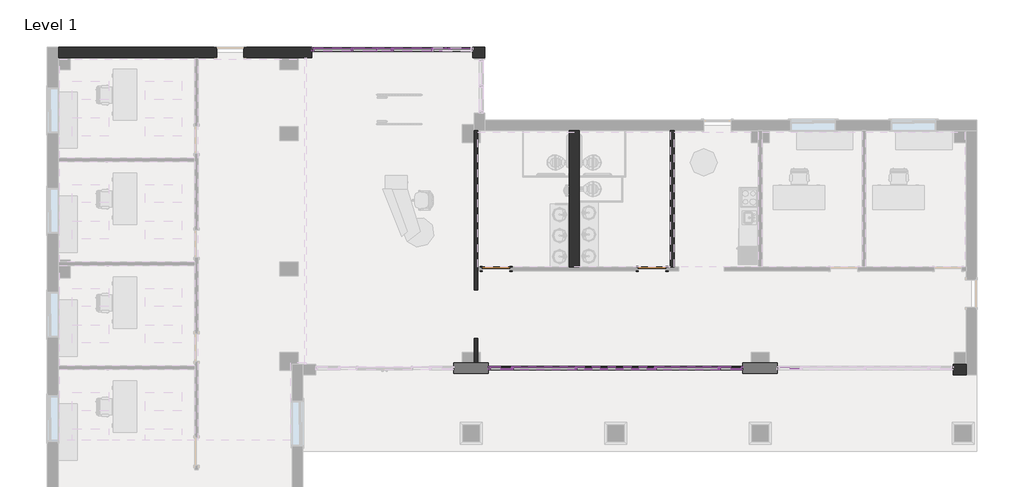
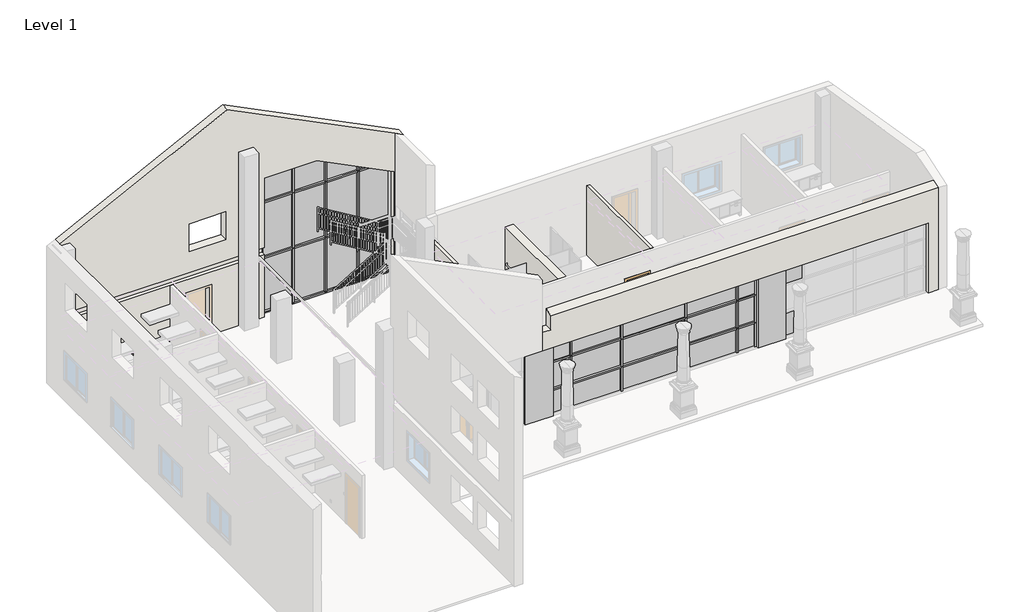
# One storey, part 2 of 8: 61 members, 31 plates, 6 walls, 2 doors.
"""IFC4 building model written with IfcOpenShell, lengths in millimetres."""

from ifc_helpers import new_model, si_unit, origin, origin_with_axes, place, context, project, spatial, polyline, outline, extrude, faceted_brep, transform, mapped, element, save
from components import door_eb9f8b14, door_88503111, member_a715cb85, member_2b49869a, member_4f1c84db, member_e69b4e5a, member_c7c5a8a0, member_13dc6413, member_3374d9b6, member_830c086e, member_f0fea5a5, member_ee409385, member_d635bea1, member_5783932f, member_ba1b3d85, member_98b79ab6, member_badecc6f, member_398e82c5, member_3ca69e07, member_e8e44c72, member_143c79e4, member_374c6745, member_8bab0767, member_1c7aa2bc, member_f444ca48, member_5247cb20, system_panel_glazed_93fe6fa7, system_panel_glazed_6ce5e085, system_panel_glazed_63f474c4, system_panel_glazed_4b691734, system_panel_glazed_53b4157c, system_panel_glazed_7b5ce646, system_panel_glazed_2dd6ead6, system_panel_glazed_6caac039, system_panel_glazed_878f6614, system_panel_glazed_8dfcc79d, system_panel_glazed_ef97d2b3, system_panel_glazed_c584759f, system_panel_glazed_aff2306c, system_panel_glazed_6eaeb95c, system_panel_glazed_87e5606a, system_panel_glazed_8c70cf02, system_panel_solid_6039f36e, system_panel_solid_0ed6c75d

model = new_model("IFC4")

# Units and contexts
model_context = context("Model", 3, world=origin())
ifc_project = project(units=[si_unit("LENGTHUNIT", "METRE", prefix="MILLI")], contexts=[model_context])

# Site, building, storey
site = spatial("IfcSite", under=ifc_project)
building = spatial("IfcBuilding", under=site)
storey = spatial("IfcBuildingStorey", under=building, Name="Level 1", Elevation=0.0)

# Doors
placement = place(None, origin())
door_shape = door_eb9f8b14(model_context)
element("IfcDoor", 1, ObjectType="Single-Flush : 36\" x 84\"", at=placement, inside=storey, context=model_context, shape_type="MappedRepresentation", body=[
    mapped(door_shape, transform((1075.2733448, 3496.4480424, 0.0), x_axis=(-1.0, 0.0, 0.0), y_axis=(0.0, -1.0, 0.0), z_axis=(0.0, 0.0, 1.0))),
])
door_2_shape = door_88503111(model_context)
element("IfcDoor", 2, ObjectType="Single-Flush : 36\" x 84\"", at=placement, inside=storey, context=model_context, shape_type="MappedRepresentation", body=[
    mapped(door_2_shape, transform((6294.9733448, 3496.4480424, 0.0), x_axis=(1.0, 0.0, 0.0), y_axis=(0.0, 1.0, 0.0), z_axis=(0.0, 0.0, 1.0))),
])

# Members
member_shape = member_a715cb85(model_context)
element("IfcMember", 3, ObjectType="Rectangular Mullion : 2.5\" x 5\" Rectangular", at=placement, inside=storey, context=model_context, shape_type="MappedRepresentation", body=[
    mapped(member_shape, transform((1611.8483448, 175.3980424, 0.0), x_axis=(1.0, 0.0, 0.0), y_axis=(0.0, -1.0, 0.0), z_axis=(0.0, 0.0, -1.0))),
])
element("IfcMember", 4, ObjectType="Rectangular Mullion : 2.5\" x 5\" Rectangular", at=placement, inside=storey, context=model_context, shape_type="MappedRepresentation", body=[
    mapped(member_shape, transform((3745.4483448, 175.3980424, 0.0), x_axis=(1.0, 0.0, 0.0), y_axis=(0.0, -1.0, 0.0), z_axis=(0.0, 0.0, -1.0))),
])
element("IfcMember", 5, ObjectType="Rectangular Mullion : 2.5\" x 5\" Rectangular", at=placement, inside=storey, context=model_context, shape_type="MappedRepresentation", body=[
    mapped(member_shape, transform((6404.5108448, 175.3980424, 0.0), x_axis=(1.0, 0.0, 0.0), y_axis=(0.0, -1.0, 0.0), z_axis=(0.0, 0.0, -1.0))),
])
element("IfcMember", 6, ObjectType="Rectangular Mullion : 2.5\" x 5\" Rectangular", at=placement, inside=storey, context=model_context, shape_type="MappedRepresentation", body=[
    mapped(member_shape, transform((849.8483448, 175.3980424, 0.0), x_axis=(1.0, 0.0, 0.0), y_axis=(0.0, -1.0, 0.0), z_axis=(0.0, 0.0, -1.0))),
])
element("IfcMember", 7, ObjectType="Rectangular Mullion : 2.5\" x 5\" Rectangular", at=placement, inside=storey, context=model_context, shape_type="MappedRepresentation", body=[
    mapped(member_shape, transform((8538.1108448, 175.3980424, 0.0), x_axis=(1.0, 0.0, 0.0), y_axis=(0.0, -1.0, 0.0), z_axis=(0.0, 0.0, -1.0))),
])
element("IfcMember", 8, ObjectType="Rectangular Mullion : 2.5\" x 5\" Rectangular", at=placement, inside=storey, context=model_context, shape_type="MappedRepresentation", body=[
    mapped(member_shape, transform((9300.1108448, 175.3980424, 0.0), x_axis=(1.0, 0.0, 0.0), y_axis=(0.0, -1.0, 0.0), z_axis=(0.0, 0.0, -1.0))),
])
member_2_shape = member_2b49869a(model_context)
element("IfcMember", 9, ObjectType="Rectangular Mullion : 2.5\" x 5\" Rectangular", at=placement, inside=storey, context=model_context, shape_type="MappedRepresentation", body=[
    mapped(member_2_shape, transform((1611.8483448, 175.3980424, 1066.8), x_axis=(1.0, 0.0, 0.0), y_axis=(0.0, -1.0, 0.0), z_axis=(0.0, 0.0, -1.0))),
])
element("IfcMember", 10, ObjectType="Rectangular Mullion : 2.5\" x 5\" Rectangular", at=placement, inside=storey, context=model_context, shape_type="MappedRepresentation", body=[
    mapped(member_2_shape, transform((3745.4483448, 175.3980424, 1066.8), x_axis=(1.0, 0.0, 0.0), y_axis=(0.0, -1.0, 0.0), z_axis=(0.0, 0.0, -1.0))),
])
element("IfcMember", 11, ObjectType="Rectangular Mullion : 2.5\" x 5\" Rectangular", at=placement, inside=storey, context=model_context, shape_type="MappedRepresentation", body=[
    mapped(member_2_shape, transform((6404.5108448, 175.3980424, 1066.8), x_axis=(1.0, 0.0, 0.0), y_axis=(0.0, -1.0, 0.0), z_axis=(0.0, 0.0, -1.0))),
])
element("IfcMember", 12, ObjectType="Rectangular Mullion : 2.5\" x 5\" Rectangular", at=placement, inside=storey, context=model_context, shape_type="MappedRepresentation", body=[
    mapped(member_2_shape, transform((849.8483448, 175.3980424, 1066.8), x_axis=(1.0, 0.0, 0.0), y_axis=(0.0, -1.0, 0.0), z_axis=(0.0, 0.0, -1.0))),
])
element("IfcMember", 13, ObjectType="Rectangular Mullion : 2.5\" x 5\" Rectangular", at=placement, inside=storey, context=model_context, shape_type="MappedRepresentation", body=[
    mapped(member_2_shape, transform((8538.1108448, 175.3980424, 1066.8), x_axis=(1.0, 0.0, 0.0), y_axis=(0.0, -1.0, 0.0), z_axis=(0.0, 0.0, -1.0))),
])
element("IfcMember", 14, ObjectType="Rectangular Mullion : 2.5\" x 5\" Rectangular", at=placement, inside=storey, context=model_context, shape_type="MappedRepresentation", body=[
    mapped(member_2_shape, transform((9300.1108448, 175.3980424, 1066.8), x_axis=(1.0, 0.0, 0.0), y_axis=(0.0, -1.0, 0.0), z_axis=(0.0, 0.0, -1.0))),
])
member_3_shape = member_4f1c84db(model_context)
element("IfcMember", 15, ObjectType="Rectangular Mullion : 2.5\" x 5\" Rectangular", at=placement, inside=storey, context=model_context, shape_type="MappedRepresentation", body=[
    mapped(member_3_shape, transform((3713.6983448, 175.3980424, 2286.0), x_axis=(0.0, 0.0, 1.0), y_axis=(0.0, -1.0, 0.0), z_axis=(1.0, 0.0, 0.0))),
])
element("IfcMember", 16, ObjectType="Rectangular Mullion : 2.5\" x 5\" Rectangular", at=placement, inside=storey, context=model_context, shape_type="MappedRepresentation", body=[
    mapped(member_3_shape, transform((8506.3608448, 175.3980424, 2286.0), x_axis=(0.0, 0.0, 1.0), y_axis=(0.0, -1.0, 0.0), z_axis=(1.0, 0.0, 0.0))),
])
element("IfcMember", 17, ObjectType="Rectangular Mullion : 2.5\" x 5\" Rectangular", at=placement, inside=storey, context=model_context, shape_type="MappedRepresentation", body=[
    mapped(member_3_shape, transform((8506.3608448, 175.3980424, 1066.8), x_axis=(0.0, 0.0, 1.0), y_axis=(0.0, -1.0, 0.0), z_axis=(1.0, 0.0, 0.0))),
])
element("IfcMember", 18, ObjectType="Rectangular Mullion : 2.5\" x 5\" Rectangular", at=placement, inside=storey, context=model_context, shape_type="MappedRepresentation", body=[
    mapped(member_3_shape, transform((3713.6983448, 175.3980424, 1066.8), x_axis=(0.0, 0.0, 1.0), y_axis=(0.0, -1.0, 0.0), z_axis=(1.0, 0.0, 0.0))),
])
member_4_shape = member_e69b4e5a(model_context)
element("IfcMember", 19, ObjectType="Rectangular Mullion : 2.5\" x 5\" Rectangular", at=placement, inside=storey, context=model_context, shape_type="MappedRepresentation", body=[
    mapped(member_4_shape, transform((6372.7608448, 175.3980424, 2286.0), x_axis=(0.0, 0.0, 1.0), y_axis=(0.0, -1.0, 0.0), z_axis=(1.0, 0.0, 0.0))),
])
element("IfcMember", 20, ObjectType="Rectangular Mullion : 2.5\" x 5\" Rectangular", at=placement, inside=storey, context=model_context, shape_type="MappedRepresentation", body=[
    mapped(member_4_shape, transform((6372.7608448, 175.3980424, 1066.8), x_axis=(0.0, 0.0, 1.0), y_axis=(0.0, -1.0, 0.0), z_axis=(1.0, 0.0, 0.0))),
])
member_5_shape = member_c7c5a8a0(model_context)
element("IfcMember", 21, ObjectType="Rectangular Mullion : 2.5\" x 5\" Rectangular", at=placement, inside=storey, context=model_context, shape_type="MappedRepresentation", body=[
    mapped(member_5_shape, transform((1580.0983448, 175.3980424, 2286.0), x_axis=(0.0, 0.0, 1.0), y_axis=(0.0, -1.0, 0.0), z_axis=(1.0, 0.0, 0.0))),
])
element("IfcMember", 22, ObjectType="Rectangular Mullion : 2.5\" x 5\" Rectangular", at=placement, inside=storey, context=model_context, shape_type="MappedRepresentation", body=[
    mapped(member_5_shape, transform((9268.3608448, 175.3980424, 2286.0), x_axis=(0.0, 0.0, 1.0), y_axis=(0.0, -1.0, 0.0), z_axis=(1.0, 0.0, 0.0))),
])
element("IfcMember", 23, ObjectType="Rectangular Mullion : 2.5\" x 5\" Rectangular", at=placement, inside=storey, context=model_context, shape_type="MappedRepresentation", body=[
    mapped(member_5_shape, transform((1580.0983448, 175.3980424, 1066.8), x_axis=(0.0, 0.0, 1.0), y_axis=(0.0, -1.0, 0.0), z_axis=(1.0, 0.0, 0.0))),
])
element("IfcMember", 24, ObjectType="Rectangular Mullion : 2.5\" x 5\" Rectangular", at=placement, inside=storey, context=model_context, shape_type="MappedRepresentation", body=[
    mapped(member_5_shape, transform((9268.3608448, 175.3980424, 1066.8), x_axis=(0.0, 0.0, 1.0), y_axis=(0.0, -1.0, 0.0), z_axis=(1.0, 0.0, 0.0))),
])
member_6_shape = member_13dc6413(model_context)
element("IfcMember", 25, ObjectType="Rectangular Mullion : 2.5\" x 5\" Rectangular", at=placement, inside=storey, context=model_context, shape_type="MappedRepresentation", body=[
    mapped(member_6_shape, transform((9331.8608448, 175.3980424, 3060.0), x_axis=(0.0, 0.0, 1.0), y_axis=(0.0, -1.0, 0.0), z_axis=(1.0, 0.0, 0.0))),
])
element("IfcMember", 26, ObjectType="Rectangular Mullion : 2.5\" x 5\" Rectangular", at=placement, inside=storey, context=model_context, shape_type="MappedRepresentation", body=[
    mapped(member_6_shape, transform((1611.8483448, 175.3980424, 3060.0), x_axis=(0.0, 0.0, 1.0), y_axis=(0.0, -1.0, 0.0), z_axis=(1.0, 0.0, 0.0))),
])
member_7_shape = member_3374d9b6(model_context)
element("IfcMember", 27, ObjectType="Rectangular Mullion : 2.5\" x 5\" Rectangular", at=placement, inside=storey, context=model_context, shape_type="MappedRepresentation", body=[
    mapped(member_7_shape, transform((3745.4483448, 175.3980424, 3060.0), x_axis=(0.0, 0.0, 1.0), y_axis=(0.0, -1.0, 0.0), z_axis=(1.0, 0.0, 0.0))),
])
element("IfcMember", 28, ObjectType="Rectangular Mullion : 2.5\" x 5\" Rectangular", at=placement, inside=storey, context=model_context, shape_type="MappedRepresentation", body=[
    mapped(member_7_shape, transform((8538.1108448, 175.3980424, 3060.0), x_axis=(0.0, 0.0, 1.0), y_axis=(0.0, -1.0, 0.0), z_axis=(1.0, 0.0, 0.0))),
])
member_8_shape = member_830c086e(model_context)
element("IfcMember", 29, ObjectType="Rectangular Mullion : 2.5\" x 5\" Rectangular", at=placement, inside=storey, context=model_context, shape_type="MappedRepresentation", body=[
    mapped(member_8_shape, transform((6404.5108448, 175.3980424, 3060.0), x_axis=(0.0, 0.0, 1.0), y_axis=(0.0, -1.0, 0.0), z_axis=(1.0, 0.0, 0.0))),
])
member_9_shape = member_f0fea5a5(model_context)
element("IfcMember", 30, ObjectType="Rectangular Mullion : 2.5\" x 5\" Rectangular", at=placement, inside=storey, context=model_context, shape_type="MappedRepresentation", body=[
    mapped(member_9_shape, transform((-3747.5516552, 10846.5730424, 0.0), x_axis=(1.0, 0.0, 0.0), y_axis=(0.0, -1.0, 0.0), z_axis=(0.0, 0.0, -1.0))),
])
element("IfcMember", 31, ObjectType="Rectangular Mullion : 2.5\" x 5\" Rectangular", at=placement, inside=storey, context=model_context, shape_type="MappedRepresentation", body=[
    mapped(member_9_shape, transform((-2401.3516552, 10846.5730424, 0.0), x_axis=(1.0, 0.0, 0.0), y_axis=(0.0, -1.0, 0.0), z_axis=(0.0, 0.0, -1.0))),
])
element("IfcMember", 32, ObjectType="Rectangular Mullion : 2.5\" x 5\" Rectangular", at=placement, inside=storey, context=model_context, shape_type="MappedRepresentation", body=[
    mapped(member_9_shape, transform((-1055.1516552, 10846.5730424, 0.0), x_axis=(1.0, 0.0, 0.0), y_axis=(0.0, -1.0, 0.0), z_axis=(0.0, 0.0, -1.0))),
])
member_10_shape = member_ee409385(model_context)
element("IfcMember", 33, ObjectType="Rectangular Mullion : 2.5\" x 5\" Rectangular", at=placement, inside=storey, context=model_context, shape_type="MappedRepresentation", body=[
    mapped(member_10_shape, transform((-5093.7516552, 10846.5730424, 2438.4), x_axis=(-1.0, 0.0, 0.0), y_axis=(0.0, -1.0, 0.0), z_axis=(0.0, 0.0, 1.0))),
])
member_11_shape = member_d635bea1(model_context)
element("IfcMember", 34, ObjectType="Rectangular Mullion : 2.5\" x 5\" Rectangular", at=placement, inside=storey, context=model_context, shape_type="MappedRepresentation", body=[
    mapped(member_11_shape, transform((-5030.2516552, 10846.5730424, 0.0), x_axis=(0.0, 0.0, -1.0), y_axis=(0.0, -1.0, 0.0), z_axis=(-1.0, 0.0, 0.0))),
])
element("IfcMember", 35, ObjectType="Rectangular Mullion : 2.5\" x 5\" Rectangular", at=placement, inside=storey, context=model_context, shape_type="MappedRepresentation", body=[
    mapped(member_11_shape, transform((-1023.4016552, 10846.5730424, 0.0), x_axis=(0.0, 0.0, -1.0), y_axis=(0.0, -1.0, 0.0), z_axis=(-1.0, 0.0, 0.0))),
])
member_12_shape = member_5783932f(model_context)
element("IfcMember", 36, ObjectType="Rectangular Mullion : 2.5\" x 5\" Rectangular", at=placement, inside=storey, context=model_context, shape_type="MappedRepresentation", body=[
    mapped(member_12_shape, transform((-3715.8016552, 10846.5730424, 0.0), x_axis=(0.0, 0.0, -1.0), y_axis=(0.0, -1.0, 0.0), z_axis=(-1.0, 0.0, 0.0))),
])
element("IfcMember", 37, ObjectType="Rectangular Mullion : 2.5\" x 5\" Rectangular", at=placement, inside=storey, context=model_context, shape_type="MappedRepresentation", body=[
    mapped(member_12_shape, transform((-2369.6016552, 10846.5730424, 0.0), x_axis=(0.0, 0.0, -1.0), y_axis=(0.0, -1.0, 0.0), z_axis=(-1.0, 0.0, 0.0))),
])
member_13_shape = member_ba1b3d85(model_context)
element("IfcMember", 38, ObjectType="Rectangular Mullion : 2.5\" x 5\" Rectangular", at=placement, inside=storey, context=model_context, shape_type="MappedRepresentation", body=[
    mapped(member_13_shape, transform((-3779.3016552, 10846.5730424, 2438.4), x_axis=(0.0, 0.0, 1.0), y_axis=(0.0, -1.0, 0.0), z_axis=(1.0, 0.0, 0.0))),
])
element("IfcMember", 39, ObjectType="Rectangular Mullion : 2.5\" x 5\" Rectangular", at=placement, inside=storey, context=model_context, shape_type="MappedRepresentation", body=[
    mapped(member_13_shape, transform((-3779.3016552, 10846.5730424, 4876.8), x_axis=(0.0, 0.0, 1.0), y_axis=(0.0, -1.0, 0.0), z_axis=(1.0, 0.0, 0.0))),
])
member_14_shape = member_98b79ab6(model_context)
element("IfcMember", 40, ObjectType="Rectangular Mullion : 2.5\" x 5\" Rectangular", at=placement, inside=storey, context=model_context, shape_type="MappedRepresentation", body=[
    mapped(member_14_shape, transform((-2433.1016552, 10846.5730424, 2438.4), x_axis=(0.0, 0.0, 1.0), y_axis=(0.0, -1.0, 0.0), z_axis=(1.0, 0.0, 0.0))),
])
element("IfcMember", 41, ObjectType="Rectangular Mullion : 2.5\" x 5\" Rectangular", at=placement, inside=storey, context=model_context, shape_type="MappedRepresentation", body=[
    mapped(member_14_shape, transform((-1086.9016552, 10846.5730424, 2438.4), x_axis=(0.0, 0.0, 1.0), y_axis=(0.0, -1.0, 0.0), z_axis=(1.0, 0.0, 0.0))),
])
element("IfcMember", 42, ObjectType="Rectangular Mullion : 2.5\" x 5\" Rectangular", at=placement, inside=storey, context=model_context, shape_type="MappedRepresentation", body=[
    mapped(member_14_shape, transform((-2433.1016552, 10846.5730424, 4876.8), x_axis=(0.0, 0.0, 1.0), y_axis=(0.0, -1.0, 0.0), z_axis=(1.0, 0.0, 0.0))),
])
element("IfcMember", 43, ObjectType="Rectangular Mullion : 2.5\" x 5\" Rectangular", at=placement, inside=storey, context=model_context, shape_type="MappedRepresentation", body=[
    mapped(member_14_shape, transform((-1086.9016552, 10846.5730424, 4876.8), x_axis=(0.0, 0.0, 1.0), y_axis=(0.0, -1.0, 0.0), z_axis=(1.0, 0.0, 0.0))),
])
element("IfcMember", 44, ObjectType="Rectangular Mullion : 2.5\" x 5\" Rectangular", at=placement, inside=storey, context=model_context, shape_type="MappedRepresentation", body=[
    mapped(member_11_shape, transform((-3779.3016552, 10846.5730424, 6108.0), x_axis=(0.0, 0.0, 1.0), y_axis=(0.0, -1.0, 0.0), z_axis=(1.0, 0.0, 0.0))),
])
element("IfcMember", 45, ObjectType="Rectangular Mullion : 2.5\" x 5\" Rectangular", at=placement, inside=storey, context=model_context, shape_type="MappedRepresentation", body=[
    mapped(member_9_shape, transform((-3747.5516552, 10846.5730424, 2438.4), x_axis=(1.0, 0.0, 0.0), y_axis=(0.0, -1.0, 0.0), z_axis=(0.0, 0.0, -1.0))),
])
element("IfcMember", 46, ObjectType="Rectangular Mullion : 2.5\" x 5\" Rectangular", at=placement, inside=storey, context=model_context, shape_type="MappedRepresentation", body=[
    mapped(member_9_shape, transform((-2401.3516552, 10846.5730424, 2438.4), x_axis=(1.0, 0.0, 0.0), y_axis=(0.0, -1.0, 0.0), z_axis=(0.0, 0.0, -1.0))),
])
element("IfcMember", 47, ObjectType="Rectangular Mullion : 2.5\" x 5\" Rectangular", at=placement, inside=storey, context=model_context, shape_type="MappedRepresentation", body=[
    mapped(member_9_shape, transform((-1055.1516552, 10846.5730424, 2438.4), x_axis=(1.0, 0.0, 0.0), y_axis=(0.0, -1.0, 0.0), z_axis=(0.0, 0.0, -1.0))),
])
element("IfcMember", 48, ObjectType="Rectangular Mullion : 2.5\" x 5\" Rectangular", at=placement, inside=storey, context=model_context, shape_type="MappedRepresentation", body=[
    mapped(member_10_shape, transform((-5093.7516552, 10846.5730424, 4876.8), x_axis=(-1.0, 0.0, 0.0), y_axis=(0.0, -1.0, 0.0), z_axis=(0.0, 0.0, 1.0))),
])
member_15_shape = member_badecc6f(model_context)
element("IfcMember", 49, ObjectType="Rectangular Mullion : 2.5\" x 5\" Rectangular", at=placement, inside=storey, context=model_context, shape_type="MappedRepresentation", body=[
    mapped(member_15_shape, transform((-2900.8192529, 10846.5730424, 6108.0), x_axis=(0.0, 0.0, 1.0), y_axis=(0.0, -1.0, 0.0), z_axis=(1.0, 0.0, 0.0))),
])
member_16_shape = member_398e82c5(model_context)
element("IfcMember", 50, ObjectType="Rectangular Mullion : 2.5\" x 5\" Rectangular", at=placement, inside=storey, context=model_context, shape_type="MappedRepresentation", body=[
    mapped(member_16_shape, transform((-2401.3516552, 10846.5730424, 5858.2662011), x_axis=(0.4472135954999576, 0.0, 0.8944271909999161), y_axis=(0.0, -1.0, 0.0), z_axis=(0.8944271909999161, 0.0, -0.4472135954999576))),
])
member_17_shape = member_3ca69e07(model_context)
element("IfcMember", 51, ObjectType="Rectangular Mullion : 2.5\" x 5\" Rectangular", at=placement, inside=storey, context=model_context, shape_type="MappedRepresentation", body=[
    mapped(member_17_shape, transform((1611.8483448, 175.3980424, 2286.0), x_axis=(1.0, 0.0, 0.0), y_axis=(0.0, -1.0, 0.0), z_axis=(0.0, 0.0, -1.0))),
])
element("IfcMember", 52, ObjectType="Rectangular Mullion : 2.5\" x 5\" Rectangular", at=placement, inside=storey, context=model_context, shape_type="MappedRepresentation", body=[
    mapped(member_17_shape, transform((3745.4483448, 175.3980424, 2286.0), x_axis=(1.0, 0.0, 0.0), y_axis=(0.0, -1.0, 0.0), z_axis=(0.0, 0.0, -1.0))),
])
element("IfcMember", 53, ObjectType="Rectangular Mullion : 2.5\" x 5\" Rectangular", at=placement, inside=storey, context=model_context, shape_type="MappedRepresentation", body=[
    mapped(member_17_shape, transform((6404.5108448, 175.3980424, 2286.0), x_axis=(1.0, 0.0, 0.0), y_axis=(0.0, -1.0, 0.0), z_axis=(0.0, 0.0, -1.0))),
])
element("IfcMember", 54, ObjectType="Rectangular Mullion : 2.5\" x 5\" Rectangular", at=placement, inside=storey, context=model_context, shape_type="MappedRepresentation", body=[
    mapped(member_17_shape, transform((849.8483448, 175.3980424, 2286.0), x_axis=(1.0, 0.0, 0.0), y_axis=(0.0, -1.0, 0.0), z_axis=(0.0, 0.0, -1.0))),
])
element("IfcMember", 55, ObjectType="Rectangular Mullion : 2.5\" x 5\" Rectangular", at=placement, inside=storey, context=model_context, shape_type="MappedRepresentation", body=[
    mapped(member_17_shape, transform((8538.1108448, 175.3980424, 2286.0), x_axis=(1.0, 0.0, 0.0), y_axis=(0.0, -1.0, 0.0), z_axis=(0.0, 0.0, -1.0))),
])
element("IfcMember", 56, ObjectType="Rectangular Mullion : 2.5\" x 5\" Rectangular", at=placement, inside=storey, context=model_context, shape_type="MappedRepresentation", body=[
    mapped(member_17_shape, transform((9300.1108448, 175.3980424, 2286.0), x_axis=(1.0, 0.0, 0.0), y_axis=(0.0, -1.0, 0.0), z_axis=(0.0, 0.0, -1.0))),
])
member_18_shape = member_e8e44c72(model_context)
element("IfcMember", 57, ObjectType="Rectangular Mullion : 2.5\" x 5\" Rectangular", at=placement, inside=storey, context=model_context, shape_type="MappedRepresentation", body=[
    mapped(member_18_shape, transform((-3747.5516552, 10846.5730424, 4876.8), x_axis=(1.0, 0.0, 0.0), y_axis=(0.0, -1.0, 0.0), z_axis=(0.0, 0.0, -1.0))),
])
member_19_shape = member_143c79e4(model_context)
element("IfcMember", 58, ObjectType="Rectangular Mullion : 2.5\" x 5\" Rectangular", at=placement, inside=storey, context=model_context, shape_type="MappedRepresentation", body=[
    mapped(member_19_shape, transform((-2401.3516552, 10846.5730424, 4876.8), x_axis=(1.0, 0.0, 0.0), y_axis=(0.0, -1.0, 0.0), z_axis=(0.0, 0.0, -1.0))),
])
member_20_shape = member_374c6745(model_context)
element("IfcMember", 59, ObjectType="Rectangular Mullion : 2.5\" x 5\" Rectangular", at=placement, inside=storey, context=model_context, shape_type="MappedRepresentation", body=[
    mapped(member_20_shape, transform((-1055.1516552, 10846.5730424, 4876.8), x_axis=(1.0, 0.0, 0.0), y_axis=(0.0, -1.0, 0.0), z_axis=(0.0, 0.0, -1.0))),
])
member_21_shape = member_8bab0767(model_context)
element("IfcMember", 60, ObjectType="Rectangular Mullion : 2.5\" x 5\" Rectangular", at=placement, inside=storey, context=model_context, shape_type="MappedRepresentation", body=[
    mapped(member_21_shape, transform((-438.4192529, 10846.5730424, 4876.8), x_axis=(0.0, 0.0, 1.0), y_axis=(0.0, -1.0, 0.0), z_axis=(1.0, 0.0, 0.0))),
])
member_22_shape = member_1c7aa2bc(model_context)
element("IfcMember", 61, ObjectType="Rectangular Mullion : 2.5\" x 5\" Rectangular", at=placement, inside=storey, context=model_context, shape_type="MappedRepresentation", body=[
    mapped(member_22_shape, transform((-1055.1516552, 10846.5730424, 5185.1662011), x_axis=(0.4472135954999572, 0.0, 0.8944271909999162), y_axis=(0.0, -1.0, 0.0), z_axis=(0.8944271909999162, 0.0, -0.4472135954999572))),
])
member_23_shape = member_f444ca48(model_context)
element("IfcMember", 62, ObjectType="Rectangular Mullion : 2.5\" x 5\" Rectangular", at=placement, inside=storey, context=model_context, shape_type="MappedRepresentation", body=[
    mapped(member_23_shape, transform((-438.4192529, 10846.5730424, 4876.8), x_axis=(0.447213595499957, 0.0, 0.8944271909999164), y_axis=(0.0, -1.0, 0.0), z_axis=(0.8944271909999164, 0.0, -0.447213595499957))),
])
member_24_shape = member_5247cb20(model_context)
element("IfcMember", 63, ObjectType="Rectangular Mullion : 2.5\" x 5\" Rectangular", at=placement, inside=storey, context=model_context, shape_type="MappedRepresentation", body=[
    mapped(member_24_shape, transform((-5093.7516552, 10846.5730424, 6108.0), x_axis=(-1.0, 0.0, 0.0), y_axis=(0.0, -1.0, 0.0), z_axis=(0.0, 0.0, 1.0))),
])

# Plates
element("IfcPlate", 64, ObjectType="Exterior - Brick on Mtl. Stud", at=placement, inside=storey, context=model_context, shape_type="Brep", body=[
    faceted_brep([(-337.6016552, -0.8144576, 0.0), (818.0983448, -0.8144576, 0.0), (818.0983448, -0.8144576, 3060.0), (-337.6016552, -0.8144576, 3060.0), (-337.6016552, 351.6105424, 0.0), (-337.6016552, 351.6105424, 3060.0), (-64.5516552, 351.6105424, 3060.0), (341.8483448, 351.6105424, 3060.0), (465.6733448, 351.6105424, 3060.0), (545.0483448, 351.6105424, 3060.0), (818.0983448, 351.6105424, 3060.0), (818.0983448, 351.6105424, 0.0), (545.0483448, 351.6105424, 0.0), (465.6733448, 351.6105424, 0.0), (341.8483448, 351.6105424, 0.0), (-64.5516552, 351.6105424, 0.0)], [[[0, 1, 2, 3]], [[4, 5, 6, 7, 8, 9, 10, 11, 12, 13, 14, 15]], [[1, 0, 4, 15, 14, 13, 12, 11]], [[2, 1, 11, 10]], [[3, 2, 10, 9, 8, 7, 6, 5]], [[0, 3, 5, 4]]]),
])
element("IfcPlate", 65, ObjectType="Exterior - Brick on Mtl. Stud", at=placement, inside=storey, context=model_context, shape_type="Brep", body=[
    faceted_brep([(9331.8608448, -0.8144576, 0.0), (10487.5608448, -0.8144576, 0.0), (10487.5608448, -0.8144576, 3060.0), (9331.8608448, -0.8144576, 3060.0), (9331.8608448, 351.6105424, 0.0), (9331.8608448, 351.6105424, 3060.0), (9604.9108448, 351.6105424, 3060.0), (10214.5108448, 351.6105424, 3060.0), (10487.5608448, 351.6105424, 3060.0), (10487.5608448, 351.6105424, 0.0), (10214.5108448, 351.6105424, 0.0), (9604.9108448, 351.6105424, 0.0)], [[[0, 1, 2, 3]], [[4, 5, 6, 7, 8, 9, 10, 11]], [[1, 0, 4, 11, 10, 9]], [[2, 1, 9, 8]], [[3, 2, 8, 7, 6, 5]], [[0, 3, 5, 4]]]),
])
system_panel_glazed_shape = system_panel_glazed_93fe6fa7(model_context)
element("IfcPlate", 66, ObjectType="System Panel : Glazed", at=placement, inside=storey, context=model_context, shape_type="MappedRepresentation", body=[
    mapped(system_panel_glazed_shape, transform((2678.6483448, 175.3980424, 0.0), x_axis=(1.0, 0.0, 0.0), y_axis=(0.0, 1.0, 0.0), z_axis=(0.0, 0.0, 1.0))),
])
element("IfcPlate", 67, ObjectType="System Panel : Glazed", at=placement, inside=storey, context=model_context, shape_type="MappedRepresentation", body=[
    mapped(system_panel_glazed_shape, transform((7471.3108448, 175.3980424, 0.0), x_axis=(1.0, 0.0, 0.0), y_axis=(0.0, 1.0, 0.0), z_axis=(0.0, 0.0, 1.0))),
])
system_panel_glazed_2_shape = system_panel_glazed_6ce5e085(model_context)
element("IfcPlate", 68, ObjectType="System Panel : Glazed", at=placement, inside=storey, context=model_context, shape_type="MappedRepresentation", body=[
    mapped(system_panel_glazed_2_shape, transform((2678.6483448, 175.3980424, 1098.55), x_axis=(1.0, 0.0, 0.0), y_axis=(0.0, 1.0, 0.0), z_axis=(0.0, 0.0, 1.0))),
])
element("IfcPlate", 69, ObjectType="System Panel : Glazed", at=placement, inside=storey, context=model_context, shape_type="MappedRepresentation", body=[
    mapped(system_panel_glazed_2_shape, transform((7471.3108448, 175.3980424, 1098.55), x_axis=(1.0, 0.0, 0.0), y_axis=(0.0, 1.0, 0.0), z_axis=(0.0, 0.0, 1.0))),
])
system_panel_glazed_3_shape = system_panel_glazed_63f474c4(model_context)
element("IfcPlate", 70, ObjectType="System Panel : Glazed", at=placement, inside=storey, context=model_context, shape_type="MappedRepresentation", body=[
    mapped(system_panel_glazed_3_shape, transform((5074.9795948, 175.3980424, 0.0), x_axis=(1.0, 0.0, 0.0), y_axis=(0.0, 1.0, 0.0), z_axis=(0.0, 0.0, 1.0))),
])
system_panel_glazed_4_shape = system_panel_glazed_4b691734(model_context)
element("IfcPlate", 71, ObjectType="System Panel : Glazed", at=placement, inside=storey, context=model_context, shape_type="MappedRepresentation", body=[
    mapped(system_panel_glazed_4_shape, transform((5074.9795948, 175.3980424, 1098.55), x_axis=(1.0, 0.0, 0.0), y_axis=(0.0, 1.0, 0.0), z_axis=(0.0, 0.0, 1.0))),
])
system_panel_glazed_5_shape = system_panel_glazed_53b4157c(model_context)
element("IfcPlate", 72, ObjectType="System Panel : Glazed", at=placement, inside=storey, context=model_context, shape_type="MappedRepresentation", body=[
    mapped(system_panel_glazed_5_shape, transform((1230.8483448, 175.3980424, 0.0), x_axis=(1.0, 0.0, 0.0), y_axis=(0.0, 1.0, 0.0), z_axis=(0.0, 0.0, 1.0))),
])
element("IfcPlate", 73, ObjectType="System Panel : Glazed", at=placement, inside=storey, context=model_context, shape_type="MappedRepresentation", body=[
    mapped(system_panel_glazed_5_shape, transform((10900.3108448, 175.3980424, 0.0), x_axis=(1.0, 0.0, 0.0), y_axis=(0.0, 1.0, 0.0), z_axis=(0.0, 0.0, 1.0))),
])
element("IfcPlate", 74, ObjectType="System Panel : Glazed", at=placement, inside=storey, context=model_context, shape_type="MappedRepresentation", body=[
    mapped(system_panel_glazed_5_shape, transform((8919.1108448, 175.3980424, 0.0), x_axis=(1.0, 0.0, 0.0), y_axis=(0.0, 1.0, 0.0), z_axis=(0.0, 0.0, 1.0))),
])
system_panel_glazed_6_shape = system_panel_glazed_7b5ce646(model_context)
element("IfcPlate", 75, ObjectType="System Panel : Glazed", at=placement, inside=storey, context=model_context, shape_type="MappedRepresentation", body=[
    mapped(system_panel_glazed_6_shape, transform((1230.8483448, 175.3980424, 1098.55), x_axis=(1.0, 0.0, 0.0), y_axis=(0.0, 1.0, 0.0), z_axis=(0.0, 0.0, 1.0))),
])
element("IfcPlate", 76, ObjectType="System Panel : Glazed", at=placement, inside=storey, context=model_context, shape_type="MappedRepresentation", body=[
    mapped(system_panel_glazed_6_shape, transform((8919.1108448, 175.3980424, 1098.55), x_axis=(1.0, 0.0, 0.0), y_axis=(0.0, 1.0, 0.0), z_axis=(0.0, 0.0, 1.0))),
])
system_panel_glazed_7_shape = system_panel_glazed_2dd6ead6(model_context)
element("IfcPlate", 77, ObjectType="System Panel : Glazed", at=placement, inside=storey, context=model_context, shape_type="MappedRepresentation", body=[
    mapped(system_panel_glazed_7_shape, transform((-4404.7766552, 10846.5730424, 63.5), x_axis=(1.0, 0.0, 0.0), y_axis=(0.0, 1.0, 0.0), z_axis=(0.0, 0.0, 1.0))),
])
element("IfcPlate", 78, ObjectType="System Panel : Glazed", at=placement, inside=storey, context=model_context, shape_type="MappedRepresentation", body=[
    mapped(system_panel_glazed_7_shape, transform((-397.9266552, 10846.5730424, 63.5), x_axis=(1.0, 0.0, 0.0), y_axis=(0.0, 1.0, 0.0), z_axis=(0.0, 0.0, 1.0))),
])
system_panel_glazed_8_shape = system_panel_glazed_6caac039(model_context)
element("IfcPlate", 79, ObjectType="System Panel : Glazed", at=placement, inside=storey, context=model_context, shape_type="MappedRepresentation", body=[
    mapped(system_panel_glazed_8_shape, transform((-3074.4516552, 10846.5730424, 63.5), x_axis=(1.0, 0.0, 0.0), y_axis=(0.0, 1.0, 0.0), z_axis=(0.0, 0.0, 1.0))),
])
element("IfcPlate", 80, ObjectType="System Panel : Glazed", at=placement, inside=storey, context=model_context, shape_type="MappedRepresentation", body=[
    mapped(system_panel_glazed_8_shape, transform((-1728.2516552, 10846.5730424, 63.5), x_axis=(1.0, 0.0, 0.0), y_axis=(0.0, 1.0, 0.0), z_axis=(0.0, 0.0, 1.0))),
])
system_panel_glazed_9_shape = system_panel_glazed_878f6614(model_context)
element("IfcPlate", 81, ObjectType="System Panel : Glazed", at=placement, inside=storey, context=model_context, shape_type="MappedRepresentation", body=[
    mapped(system_panel_glazed_9_shape, transform((-4404.7766552, 10846.5730424, 2470.15), x_axis=(1.0, 0.0, 0.0), y_axis=(0.0, 1.0, 0.0), z_axis=(0.0, 0.0, 1.0))),
])
system_panel_glazed_10_shape = system_panel_glazed_8dfcc79d(model_context)
element("IfcPlate", 82, ObjectType="System Panel : Glazed", at=placement, inside=storey, context=model_context, shape_type="MappedRepresentation", body=[
    mapped(system_panel_glazed_10_shape, transform((-3074.4516552, 10846.5730424, 2470.15), x_axis=(1.0, 0.0, 0.0), y_axis=(0.0, 1.0, 0.0), z_axis=(0.0, 0.0, 1.0))),
])
element("IfcPlate", 83, ObjectType="System Panel : Glazed", at=placement, inside=storey, context=model_context, shape_type="MappedRepresentation", body=[
    mapped(system_panel_glazed_10_shape, transform((-1728.2516552, 10846.5730424, 2470.15), x_axis=(1.0, 0.0, 0.0), y_axis=(0.0, 1.0, 0.0), z_axis=(0.0, 0.0, 1.0))),
])
system_panel_glazed_11_shape = system_panel_glazed_ef97d2b3(model_context)
element("IfcPlate", 84, ObjectType="System Panel : Glazed", at=placement, inside=storey, context=model_context, shape_type="MappedRepresentation", body=[
    mapped(system_panel_glazed_11_shape, transform((2678.6483448, 175.3980424, 2317.75), x_axis=(1.0, 0.0, 0.0), y_axis=(0.0, 1.0, 0.0), z_axis=(0.0, 0.0, 1.0))),
])
element("IfcPlate", 85, ObjectType="System Panel : Glazed", at=placement, inside=storey, context=model_context, shape_type="MappedRepresentation", body=[
    mapped(system_panel_glazed_11_shape, transform((7471.3108448, 175.3980424, 2317.75), x_axis=(1.0, 0.0, 0.0), y_axis=(0.0, 1.0, 0.0), z_axis=(0.0, 0.0, 1.0))),
])
system_panel_glazed_12_shape = system_panel_glazed_c584759f(model_context)
element("IfcPlate", 86, ObjectType="System Panel : Glazed", at=placement, inside=storey, context=model_context, shape_type="MappedRepresentation", body=[
    mapped(system_panel_glazed_12_shape, transform((-397.9266552, 10846.5730424, 2470.15), x_axis=(1.0, 0.0, 0.0), y_axis=(0.0, 1.0, 0.0), z_axis=(0.0, 0.0, 1.0))),
])
system_panel_glazed_13_shape = system_panel_glazed_aff2306c(model_context)
element("IfcPlate", 87, ObjectType="System Panel : Glazed", at=placement, inside=storey, context=model_context, shape_type="MappedRepresentation", body=[
    mapped(system_panel_glazed_13_shape, transform((-4404.7766552, 10846.5730424, 4908.55), x_axis=(1.0, 0.0, 0.0), y_axis=(0.0, 1.0, 0.0), z_axis=(0.0, 0.0, 1.0))),
])
system_panel_glazed_14_shape = system_panel_glazed_6eaeb95c(model_context)
element("IfcPlate", 88, ObjectType="System Panel : Glazed", at=placement, inside=storey, context=model_context, shape_type="MappedRepresentation", body=[
    mapped(system_panel_glazed_14_shape, transform((-3074.4516552, 10846.5730424, 4908.55), x_axis=(1.0, 0.0, 0.0), y_axis=(0.0, 1.0, 0.0), z_axis=(0.0, 0.0, 1.0))),
])
system_panel_glazed_15_shape = system_panel_glazed_87e5606a(model_context)
element("IfcPlate", 89, ObjectType="System Panel : Glazed", at=placement, inside=storey, context=model_context, shape_type="MappedRepresentation", body=[
    mapped(system_panel_glazed_15_shape, transform((-1728.2516552, 10846.5730424, 4908.55), x_axis=(1.0, 0.0, 0.0), y_axis=(0.0, 1.0, 0.0), z_axis=(0.0, 0.0, 1.0))),
])
system_panel_glazed_16_shape = system_panel_glazed_8c70cf02(model_context)
element("IfcPlate", 90, ObjectType="System Panel : Glazed", at=placement, inside=storey, context=model_context, shape_type="MappedRepresentation", body=[
    mapped(system_panel_glazed_16_shape, transform((-833.6556123, 10846.5730424, 4908.55), x_axis=(1.0, 0.0, 0.0), y_axis=(0.0, 1.0, 0.0), z_axis=(0.0, 0.0, 1.0))),
])
system_panel_solid_shape = system_panel_solid_6039f36e(model_context)
element("IfcPlate", 91, ObjectType="System Panel : Solid", at=placement, inside=storey, context=model_context, shape_type="MappedRepresentation", body=[
    mapped(system_panel_solid_shape, transform((1230.8483448, 175.3980424, 2317.75), x_axis=(1.0, 0.0, 0.0), y_axis=(0.0, 1.0, 0.0), z_axis=(0.0, 0.0, 1.0))),
])
element("IfcPlate", 92, ObjectType="System Panel : Solid", at=placement, inside=storey, context=model_context, shape_type="MappedRepresentation", body=[
    mapped(system_panel_solid_shape, transform((10900.3108448, 175.3980424, 2317.75), x_axis=(1.0, 0.0, 0.0), y_axis=(0.0, 1.0, 0.0), z_axis=(0.0, 0.0, 1.0))),
])
element("IfcPlate", 93, ObjectType="System Panel : Solid", at=placement, inside=storey, context=model_context, shape_type="MappedRepresentation", body=[
    mapped(system_panel_solid_shape, transform((8919.1108448, 175.3980424, 2317.75), x_axis=(1.0, 0.0, 0.0), y_axis=(0.0, 1.0, 0.0), z_axis=(0.0, 0.0, 1.0))),
])
system_panel_solid_2_shape = system_panel_solid_0ed6c75d(model_context)
element("IfcPlate", 94, ObjectType="System Panel : Solid", at=placement, inside=storey, context=model_context, shape_type="MappedRepresentation", body=[
    mapped(system_panel_solid_2_shape, transform((5074.9795948, 175.3980424, 2317.75), x_axis=(1.0, 0.0, 0.0), y_axis=(0.0, 1.0, 0.0), z_axis=(0.0, 0.0, 1.0))),
])

# Walls
element("IfcWall", 95, ObjectType="Exterior - Brick on Mtl. Stud", at=placement, inside=storey, context=model_context, shape_type="Brep", body=[
    faceted_brep([(-8278.2766552, 10568.7605424, 0.0), (-8278.2766552, 10568.7605424, 2133.6), (-7363.8766552, 10568.7605424, 2133.6), (-7363.8766552, 10568.7605424, 0.0), (-6160.5516552, 10568.7605424, 0.0), (-5550.9516552, 10568.7605424, 0.0), (-5093.7516552, 10568.7605424, 0.0), (-5093.7516552, 10568.7605424, 2755.2), (-5284.2516552, 10568.7605424, 2755.2), (-5335.0516552, 10568.7605424, 2755.2), (-8887.8766552, 10568.7605424, 2755.2), (-9011.7016552, 10568.7605424, 2755.2), (-13583.7016552, 10568.7605424, 2755.2), (-13583.7016552, 10568.7605424, 0.0), (-13177.3016552, 10568.7605424, 0.0), (-9011.7016552, 10568.7605424, 0.0), (-8887.8766552, 10568.7605424, 0.0), (694.2733448, 10568.7605424, 6006.3375), (341.8483448, 10568.7605424, 6182.55), (-6620.9266552, 10568.7605424, 9663.9375), (-8887.8766552, 10568.7605424, 8530.4625), (-9011.7016552, 10568.7605424, 8468.55), (-13583.7016552, 10568.7605424, 6182.55), (-13583.7016552, 10568.7605424, 6100.0), (-13583.7016552, 10568.7605424, 3060.0), (-9011.7016552, 10568.7605424, 3060.0), (-8887.8766552, 10568.7605424, 3060.0), (-5093.7516552, 10568.7605424, 3060.0), (-5093.7516552, 10568.7605424, 6108.0), (-2900.8192529, 10568.7605424, 6108.0), (291.0483448, 10568.7605424, 4512.0662011), (291.0483448, 10568.7605424, 0.0), (341.8483448, 10568.7605424, 0.0), (694.2733448, 10568.7605424, 0.0), (-6684.4266552, 10568.7605424, 5193.6), (-6684.4266552, 10568.7605424, 3974.4), (-8208.4266552, 10568.7605424, 3974.4), (-8208.4266552, 10568.7605424, 5193.6), (-8278.2766552, 10921.1855424, 2133.6), (-8278.2766552, 10921.1855424, 0.0), (-13583.7016552, 10921.1855424, 0.0), (-13583.7016552, 10921.1855424, 6182.55), (-6620.9266552, 10921.1855424, 9663.9375), (694.2733448, 10921.1855424, 6006.3375), (694.2733448, 10921.1855424, 0.0), (291.0483448, 10921.1855424, 0.0), (291.0483448, 10921.1855424, 4512.0662011), (-2900.8192529, 10921.1855424, 6108.0), (-5093.7516552, 10921.1855424, 6108.0), (-5093.7516552, 10921.1855424, 0.0), (-7363.8766552, 10921.1855424, 0.0), (-7363.8766552, 10921.1855424, 2133.6), (-6684.4266552, 10921.1855424, 3974.4), (-6684.4266552, 10921.1855424, 5193.6), (-8208.4266552, 10921.1855424, 5193.6), (-8208.4266552, 10921.1855424, 3974.4), (-5093.7516552, 10733.8605424, 2755.2), (-13583.7016552, 10733.8605424, 2755.2), (-13583.7016552, 10733.8605424, 3060.0), (-5093.7516552, 10733.8605424, 3060.0)], [[[0, 1, 2, 3, 4, 5, 6, 7, 8, 9, 10, 11, 12, 13, 14, 15, 16]], [[17, 18, 19, 20, 21, 22, 23, 24, 25, 26, 27, 28, 29, 30, 31, 32, 33], [34, 35, 36, 37]], [[38, 39, 40, 41, 42, 43, 44, 45, 46, 47, 48, 49, 50, 51], [52, 53, 54, 55]], [[39, 0, 16, 15, 14, 13, 40]], [[3, 50, 49, 6, 5, 4]], [[44, 33, 32, 31, 45]], [[1, 0, 39, 38]], [[2, 1, 38, 51]], [[3, 2, 51, 50]], [[22, 21, 20, 19, 42, 41]], [[19, 18, 17, 43, 42]], [[35, 34, 53, 52]], [[36, 35, 52, 55]], [[37, 36, 55, 54]], [[34, 37, 54, 53]], [[56, 57, 12, 11, 10, 9, 8, 7]], [[58, 59, 27, 26, 25, 24]], [[57, 56, 59, 58]], [[17, 33, 44, 43]], [[22, 41, 40, 13, 12, 57, 58, 24, 23]], [[48, 28, 27, 59, 56, 7, 6, 49]], [[28, 48, 47, 29]], [[29, 47, 46, 30]], [[30, 46, 45, 31]]]),
])
element("IfcWall", 96, ObjectType="Exterior - Brick on Mtl. Stud", at=placement, inside=storey, context=model_context, shape_type="Brep", body=[
    faceted_brep([(341.8483448, 300.8105424, 3860.0), (694.2733448, 300.8105424, 3860.0), (694.2733448, 300.8105424, 4587.075), (16801.0483448, 300.8105424, 4587.075), (16801.0483448, 300.8105424, 3860.0), (16801.0483448, 300.8105424, 0.0), (16394.6483448, 300.8105424, 0.0), (16367.6608448, 300.8105424, 0.0), (16367.6608448, 300.8105424, 3060.0), (10214.5108448, 300.8105424, 3060.0), (9604.9108448, 300.8105424, 3060.0), (694.2733448, 300.8105424, 3060.0), (341.8483448, 300.8105424, 3060.0), (694.2733448, -51.6144576, 3860.0), (341.8483448, -51.6144576, 3860.0), (341.8483448, -51.6144576, 3060.0), (16367.6608448, -51.6144576, 3060.0), (16367.6608448, -51.6144576, 0.0), (16801.0483448, -51.6144576, 0.0), (16801.0483448, -51.6144576, 4469.6), (694.2733448, -51.6144576, 4469.6)], [[[0, 1, 2, 3, 4, 5, 6, 7, 8, 9, 10, 11, 12]], [[13, 14, 15, 16, 17, 18, 19, 20]], [[5, 18, 17, 7, 6]], [[1, 0, 14, 13]], [[1, 13, 20, 2]], [[3, 2, 20, 19]], [[8, 16, 15, 12, 11, 10, 9]], [[0, 12, 15, 14]], [[5, 4, 3, 19, 18]], [[16, 8, 7, 17]]]),
])
element("IfcWall", 97, ObjectType="Interior - 4 7/8\" Partition (1-hr)", at=placement, inside=storey, context=model_context, shape_type="SweptSolid", body=[
    extrude(outline(polyline([(6904.5733448, 3558.3605424), (6904.5733448, 8130.3605424), (7028.3983448, 8130.3605424), (7028.3983448, 3558.3605424), (6904.5733448, 3558.3605424)])), origin_with_axes(), (0.0, 0.0, 1.0), 3060.0),
])
element("IfcWall", 98, ObjectType="Interior - 4 7/8\" Partition (1-hr)", at=placement, inside=storey, context=model_context, shape_type="Brep", body=[
    faceted_brep([(341.8483448, 8130.3605424, 0.0), (341.8483448, 7723.9605424, 0.0), (341.8483448, 2791.5980424, 0.0), (341.8483448, 2791.5980424, 3060.0), (341.8483448, 8130.3605424, 3060.0), (465.6733448, 8130.3605424, 0.0), (465.6733448, 8130.3605424, 3060.0), (465.6733448, 7723.9605424, 3060.0), (465.6733448, 3558.3605424, 3060.0), (465.6733448, 3434.5355424, 3060.0), (465.6733448, 2791.5980424, 3060.0), (465.6733448, 2791.5980424, 0.0), (465.6733448, 3434.5355424, 0.0), (465.6733448, 3558.3605424, 0.0), (465.6733448, 7723.9605424, 0.0)], [[[0, 1, 2, 3, 4]], [[5, 6, 7, 8, 9, 10, 11, 12, 13, 14]], [[2, 1, 0, 5, 14, 13, 12, 11]], [[3, 2, 11, 10]], [[4, 3, 10, 9, 8, 7, 6]], [[0, 4, 6, 5]]]),
])
element("IfcWall", 99, ObjectType="Interior - 4 7/8\" Partition (1-hr)", at=placement, inside=storey, context=model_context, shape_type="Brep", body=[
    faceted_brep([(341.8483448, 1165.9980424, 0.0), (341.8483448, 707.2105424, 0.0), (341.8483448, 351.6105424, 0.0), (341.8483448, 351.6105424, 3060.0), (341.8483448, 707.2105424, 3060.0), (341.8483448, 1165.9980424, 3060.0), (465.6733448, 1165.9980424, 0.0), (465.6733448, 1165.9980424, 3060.0), (465.6733448, 707.2105424, 3060.0), (465.6733448, 351.6105424, 3060.0), (465.6733448, 351.6105424, 0.0), (465.6733448, 707.2105424, 0.0)], [[[0, 1, 2, 3, 4, 5]], [[6, 7, 8, 9, 10, 11]], [[2, 1, 0, 6, 11, 10]], [[5, 4, 3, 9, 8, 7]], [[0, 5, 7, 6]], [[3, 2, 10, 9]]]),
])
element("IfcWall", 100, ObjectType="Plumbing Wall", at=placement, inside=storey, context=model_context, shape_type="SweptSolid", body=[
    extrude(outline(polyline([(3513.6733448, 3558.3605424), (3513.6733448, 8130.3605424), (3856.5733448, 8130.3605424), (3856.5733448, 3558.3605424), (3513.6733448, 3558.3605424)])), origin_with_axes(), (0.0, 0.0, 1.0), 2438.4),
])

save(model, "model.ifc")
